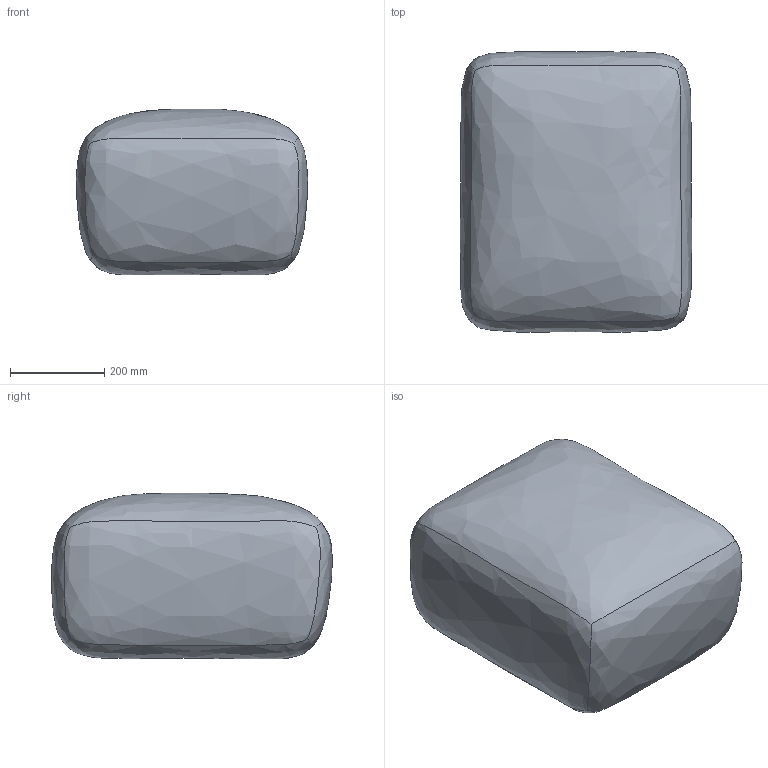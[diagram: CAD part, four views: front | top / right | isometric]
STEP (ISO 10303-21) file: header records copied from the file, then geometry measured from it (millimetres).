
FILE_DESCRIPTION(/* description */ (''),/* implementation_level */ '2;1');
FILE_NAME(/* name */ 'Little-Big-Pouf_NORR11',/* time_stamp */ '2024-08-08T14:56:53+02:00',/* author */ (''),/* organization */ (''),/* preprocessor_version */ 'ST-DEVELOPER v19.2',/* originating_system */ 'Rhino 8.9',/* authorisation */ '');
FILE_SCHEMA (('CONFIG_CONTROL_DESIGN'));
Length unit declared in the file: millimetre
Products named in the file (1): Document
Bounding box: 489.54 x 593.86 x 351.21 mm (x, y, z)
Volume: 85151621.9 mm3; surface area: 1034621.8 mm2
Topology: 1 solids, 1 shells, 6 faces, 12 edges, 8 vertices
Faces by surface type: bspline 6
Entity records: 1532 total; most frequent: CARTESIAN_POINT 1360, ORIENTED_EDGE 24, EDGE_CURVE 12, B_SPLINE_CURVE_WITH_KNOTS 12, VERTEX_POINT 8, ORGANIZATION 7, PERSON_AND_ORGANIZATION 7, ADVANCED_FACE 6
